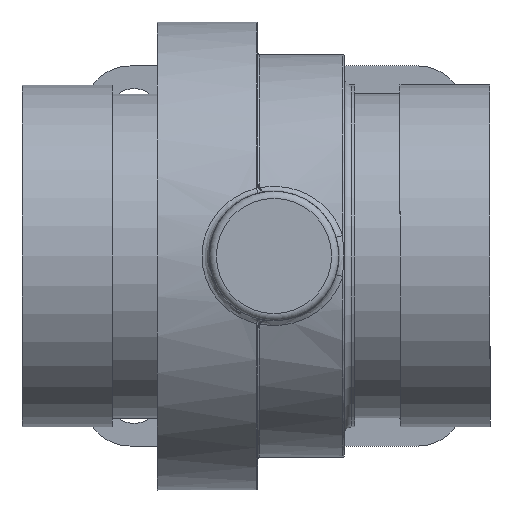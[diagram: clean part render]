
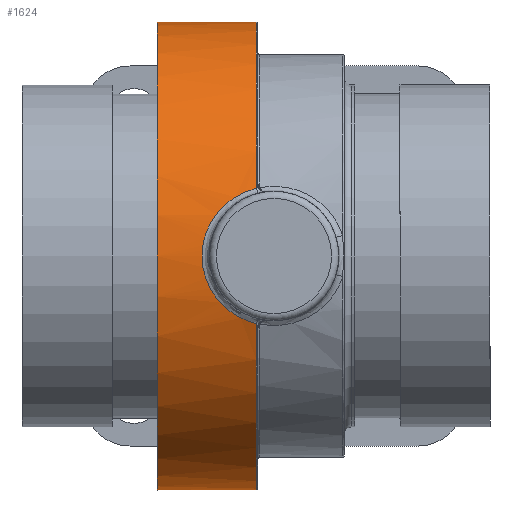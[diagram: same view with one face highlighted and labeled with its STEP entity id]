
A CAD part, front view. The second image highlights one B-rep face of the part: STEP entity #1624.
In plain terms, the highlighted cylindrical face has radius 41.275 mm (diameter 82.55 mm), a full revolution.
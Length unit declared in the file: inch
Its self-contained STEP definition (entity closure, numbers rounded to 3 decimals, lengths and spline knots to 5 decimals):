
#90=B_SPLINE_CURVE_WITH_KNOTS('',3,(#2998,#2999,#3000,#3001,#3002,#3003),
 .UNSPECIFIED.,.F.,.F.,(4,1,1,4),(-3.38621,-2.90247,-1.93498,
-1.69284),.UNSPECIFIED.);
#91=B_SPLINE_CURVE_WITH_KNOTS('',3,(#3004,#3005,#3006,#3007,#3008,#3009,
#3010),.UNSPECIFIED.,.F.,.F.,(4,1,1,1,4),(-1.69284,-1.45123,
-0.96749,-0.48374,0.),.UNSPECIFIED.);
#97=B_SPLINE_CURVE_WITH_KNOTS('',3,(#3133,#3134,#3135,#3136,#3137,#3138),
 .UNSPECIFIED.,.F.,.F.,(4,1,1,4),(0.,0.10549,0.17582,
0.24615),.UNSPECIFIED.);
#98=B_SPLINE_CURVE_WITH_KNOTS('',3,(#3142,#3143,#3144,#3145,#3146),
 .UNSPECIFIED.,.F.,.F.,(4,1,4),(0.,0.10549,0.24615),
 .UNSPECIFIED.);
#213=FACE_OUTER_BOUND('',#313,.T.);
#313=EDGE_LOOP('',(#1238,#1239,#1240,#1241,#1242,#1243,#1244,#1245,#1246,
#1247,#1248,#1249,#1250));
#419=LINE('',#3131,#484);
#420=LINE('',#3148,#485);
#421=LINE('',#3151,#486);
#484=VECTOR('',#2174,0.3937);
#485=VECTOR('',#2177,0.3937);
#486=VECTOR('',#2180,1.625);
#560=CIRCLE('',#1794,1.625);
#561=CIRCLE('',#1795,1.625);
#562=CIRCLE('',#1796,1.625);
#563=CIRCLE('',#1797,1.625);
#564=CIRCLE('',#1798,1.625);
#694=VERTEX_POINT('',#2937);
#696=VERTEX_POINT('',#2995);
#697=VERTEX_POINT('',#2997);
#717=VERTEX_POINT('',#3128);
#718=VERTEX_POINT('',#3130);
#719=VERTEX_POINT('',#3132);
#720=VERTEX_POINT('',#3139);
#721=VERTEX_POINT('',#3141);
#722=VERTEX_POINT('',#3147);
#723=VERTEX_POINT('',#3150);
#724=VERTEX_POINT('',#3152);
#875=EDGE_CURVE('',#696,#697,#90,.T.);
#876=EDGE_CURVE('',#697,#694,#91,.T.);
#909=EDGE_CURVE('',#717,#696,#560,.T.);
#910=EDGE_CURVE('',#718,#717,#419,.T.);
#911=EDGE_CURVE('',#719,#718,#97,.T.);
#912=EDGE_CURVE('',#720,#719,#561,.T.);
#913=EDGE_CURVE('',#721,#720,#98,.T.);
#914=EDGE_CURVE('',#722,#721,#420,.T.);
#915=EDGE_CURVE('',#694,#722,#562,.T.);
#916=EDGE_CURVE('',#697,#723,#421,.T.);
#917=EDGE_CURVE('',#723,#724,#563,.T.);
#918=EDGE_CURVE('',#724,#723,#564,.T.);
#1238=ORIENTED_EDGE('',*,*,#875,.F.);
#1239=ORIENTED_EDGE('',*,*,#909,.F.);
#1240=ORIENTED_EDGE('',*,*,#910,.F.);
#1241=ORIENTED_EDGE('',*,*,#911,.F.);
#1242=ORIENTED_EDGE('',*,*,#912,.F.);
#1243=ORIENTED_EDGE('',*,*,#913,.F.);
#1244=ORIENTED_EDGE('',*,*,#914,.F.);
#1245=ORIENTED_EDGE('',*,*,#915,.F.);
#1246=ORIENTED_EDGE('',*,*,#876,.F.);
#1247=ORIENTED_EDGE('',*,*,#916,.T.);
#1248=ORIENTED_EDGE('',*,*,#917,.T.);
#1249=ORIENTED_EDGE('',*,*,#918,.T.);
#1250=ORIENTED_EDGE('',*,*,#916,.F.);
#1461=CYLINDRICAL_SURFACE('',#1793,1.625);
#1624=ADVANCED_FACE('',(#213),#1461,.T.);
#1793=AXIS2_PLACEMENT_3D('',#3127,#2170,#2171);
#1794=AXIS2_PLACEMENT_3D('',#3129,#2172,#2173);
#1795=AXIS2_PLACEMENT_3D('',#3140,#2175,#2176);
#1796=AXIS2_PLACEMENT_3D('',#3149,#2178,#2179);
#1797=AXIS2_PLACEMENT_3D('',#3153,#2181,#2182);
#1798=AXIS2_PLACEMENT_3D('',#3154,#2183,#2184);
#2170=DIRECTION('center_axis',(1.,0.,0.));
#2171=DIRECTION('ref_axis',(0.,1.,0.));
#2172=DIRECTION('center_axis',(1.,0.,0.));
#2173=DIRECTION('ref_axis',(0.,-1.,0.));
#2174=DIRECTION('',(1.,0.,0.));
#2175=DIRECTION('center_axis',(1.,0.,0.));
#2176=DIRECTION('ref_axis',(0.,1.,0.));
#2177=DIRECTION('',(-1.,0.,0.));
#2178=DIRECTION('center_axis',(1.,0.,0.));
#2179=DIRECTION('ref_axis',(0.,-1.,0.));
#2180=DIRECTION('',(-1.,0.,0.));
#2181=DIRECTION('center_axis',(1.,0.,0.));
#2182=DIRECTION('ref_axis',(0.,0.,1.));
#2183=DIRECTION('center_axis',(1.,0.,0.));
#2184=DIRECTION('ref_axis',(0.,0.,1.));
#2937=CARTESIAN_POINT('',(-0.122,-1.55542,-0.47041));
#2995=CARTESIAN_POINT('',(-0.122,-1.55542,0.47041));
#2997=CARTESIAN_POINT('',(-0.5,-1.625,0.));
#2998=CARTESIAN_POINT('Ctrl Pts',(-0.122,-1.55542,
0.47041));
#2999=CARTESIAN_POINT('Ctrl Pts',(-0.1834,-1.55995,
0.45543));
#3000=CARTESIAN_POINT('Ctrl Pts',(-0.35817,-1.58391,
0.37715));
#3001=CARTESIAN_POINT('Ctrl Pts',(-0.48521,-1.62092,
0.18506));
#3002=CARTESIAN_POINT('Ctrl Pts',(-0.50006,-1.62506,0.03088));
#3003=CARTESIAN_POINT('Ctrl Pts',(-0.50003,-1.62503,0.));
#3004=CARTESIAN_POINT('Ctrl Pts',(-0.50003,-1.62503,0.));
#3005=CARTESIAN_POINT('Ctrl Pts',(-0.49999,-1.625,
-0.03081));
#3006=CARTESIAN_POINT('Ctrl Pts',(-0.49089,-1.62233,-0.12335));
#3007=CARTESIAN_POINT('Ctrl Pts',(-0.43116,-1.60547,-0.26787));
#3008=CARTESIAN_POINT('Ctrl Pts',(-0.29957,-1.57557,
-0.40275));
#3009=CARTESIAN_POINT('Ctrl Pts',(-0.1834,-1.55995,
-0.45543));
#3010=CARTESIAN_POINT('Ctrl Pts',(-0.122,-1.55542,
-0.47041));
#3127=CARTESIAN_POINT('Origin',(-0.462,0.,0.));
#3128=CARTESIAN_POINT('',(-0.122,1.52671,0.55657));
#3129=CARTESIAN_POINT('Origin',(-0.122,0.,0.));
#3130=CARTESIAN_POINT('',(-0.425,1.52671,0.55657));
#3131=CARTESIAN_POINT('',(-0.462,1.52671,0.55657));
#3132=CARTESIAN_POINT('',(-0.485,1.54715,0.49694));
#3133=CARTESIAN_POINT('Ctrl Pts',(-0.485,1.54715,0.49694));
#3134=CARTESIAN_POINT('Ctrl Pts',(-0.485,1.54294,0.51004));
#3135=CARTESIAN_POINT('Ctrl Pts',(-0.47759,1.53562,0.53176));
#3136=CARTESIAN_POINT('Ctrl Pts',(-0.45264,1.52831,0.55221));
#3137=CARTESIAN_POINT('Ctrl Pts',(-0.43423,1.52671,0.55657));
#3138=CARTESIAN_POINT('Ctrl Pts',(-0.425,1.52671,0.55657));
#3139=CARTESIAN_POINT('',(-0.485,1.54715,-0.49694));
#3140=CARTESIAN_POINT('Origin',(-0.485,0.,0.));
#3141=CARTESIAN_POINT('',(-0.425,1.52671,-0.55657));
#3142=CARTESIAN_POINT('Ctrl Pts',(-0.425,1.52671,-0.55657));
#3143=CARTESIAN_POINT('Ctrl Pts',(-0.43884,1.52671,-0.55657));
#3144=CARTESIAN_POINT('Ctrl Pts',(-0.47085,1.53108,-0.54479));
#3145=CARTESIAN_POINT('Ctrl Pts',(-0.485,1.54154,-0.51441));
#3146=CARTESIAN_POINT('Ctrl Pts',(-0.485,1.54715,-0.49694));
#3147=CARTESIAN_POINT('',(-0.122,1.52671,-0.55657));
#3148=CARTESIAN_POINT('',(-0.462,1.52671,-0.55657));
#3149=CARTESIAN_POINT('Origin',(-0.122,0.,0.));
#3150=CARTESIAN_POINT('',(-0.812,-1.625,0.));
#3151=CARTESIAN_POINT('',(-0.462,-1.625,0.));
#3152=CARTESIAN_POINT('',(-0.812,1.625,0.));
#3153=CARTESIAN_POINT('Origin',(-0.812,0.,0.));
#3154=CARTESIAN_POINT('Origin',(-0.812,0.,0.));
